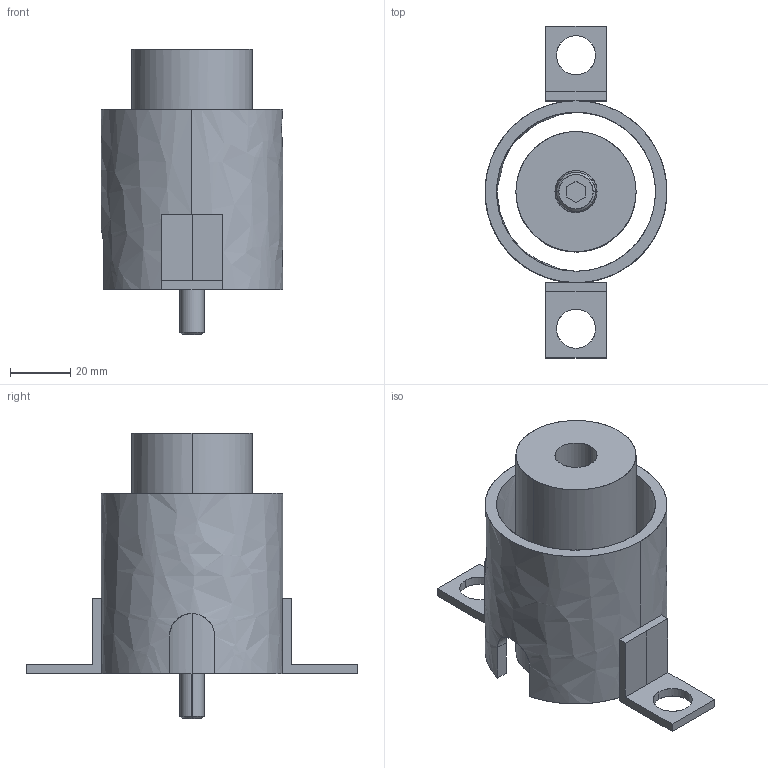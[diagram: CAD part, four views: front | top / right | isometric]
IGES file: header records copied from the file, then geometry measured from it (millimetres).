
Global section: file name: E:\UnigraphicsGraphicData\MISUMI_PRESS-PARTS\IGES\3d_phub40-80-60-r_07086_r00.igs; native system: NX V5.0; preprocessor: UGS NX IGES V5.0; author: MISUMI; date: 20110105.162254; units: millimetre
Bounding box: 60.5 x 110.5 x 95 mm (x, y, z)
Surface area: 46683.3 mm2 (no closed solid volume)
Topology: 0 solids, 0 shells, 69 faces, 498 edges, 498 vertices
Faces by surface type: bspline 69
